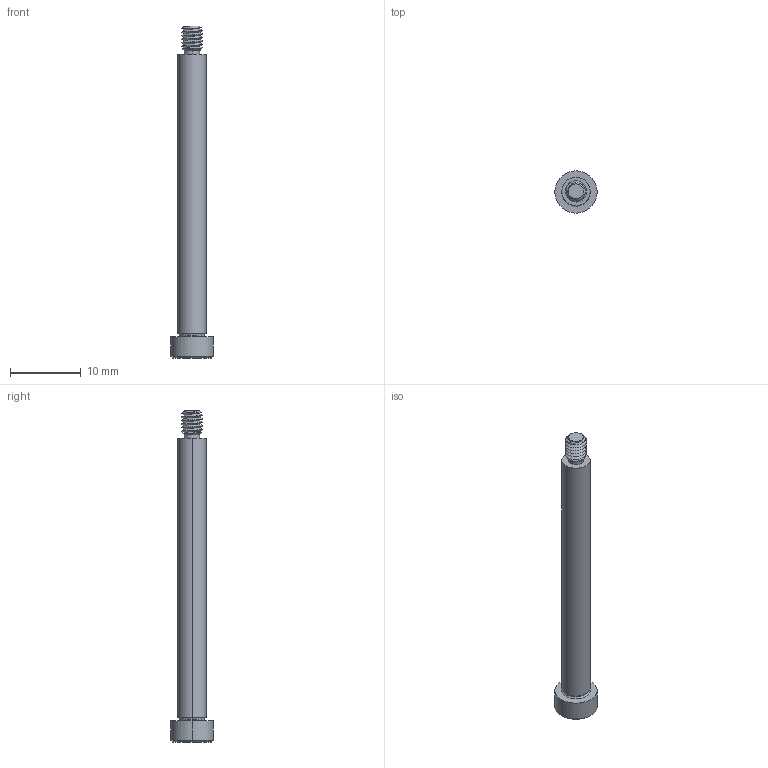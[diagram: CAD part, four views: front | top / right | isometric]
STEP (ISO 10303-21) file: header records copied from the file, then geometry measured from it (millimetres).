
FILE_DESCRIPTION (( 'STEP AP203' ), '1' );
FILE_NAME ('P0130.040-040-B2.step', '2021-11-09T21:08:02', ( '' ), ( '' ), 'SwSTEP 2.0', 'SolidWorks 2019', '' );
FILE_SCHEMA (( 'CONFIG_CONTROL_DESIGN' ));
Length unit declared in the file: millimetre
Products named in the file (1): P0130.040-040-B2
Bounding box: 6 x 6 x 47 mm (x, y, z)
Volume: 598 mm3; surface area: 687 mm2
Topology: 1 solids, 1 shells, 54 faces, 124 edges, 73 vertices
Faces by surface type: cylinder 18, plane 16, cone 14, torus 4, bspline 2
Entity records: 2218 total; most frequent: CARTESIAN_POINT 1016, ORIENTED_EDGE 244, DIRECTION 229, EDGE_CURVE 122, AXIS2_PLACEMENT_3D 93, VERTEX_POINT 73, EDGE_LOOP 57, FACE_OUTER_BOUND 54
